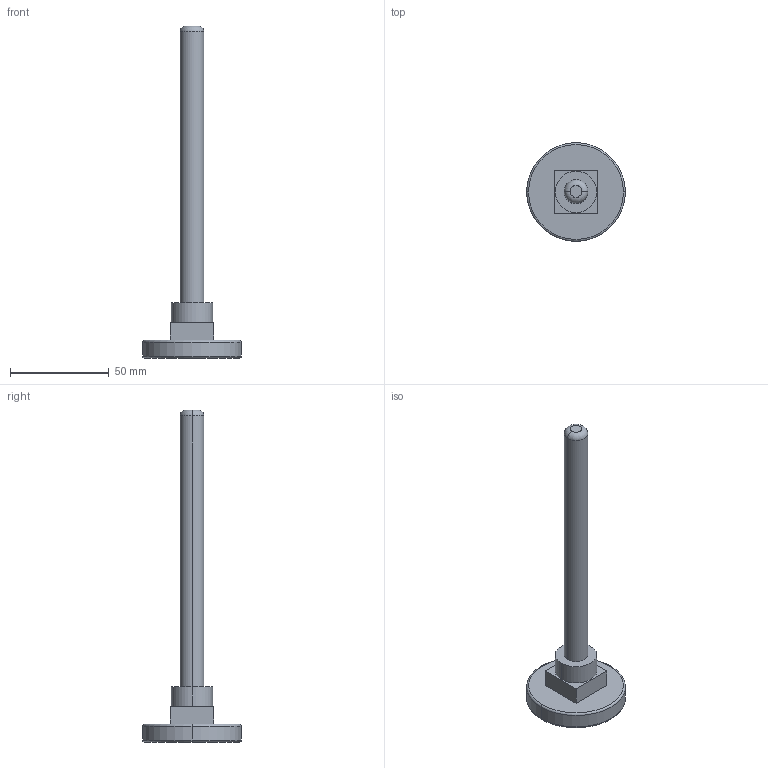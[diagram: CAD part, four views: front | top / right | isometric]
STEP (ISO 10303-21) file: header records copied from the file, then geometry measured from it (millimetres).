
FILE_DESCRIPTION (( 'STEP AP214' ), '1' );
FILE_NAME ('Termometr_bimetaliczny_x_0_3D_AFRISO.STEP', '2022-12-16T13:28:50', ( '' ), ( '' ), 'SwSTEP 2.0', 'SolidWorks 2022', '' );
FILE_SCHEMA (( 'AUTOMOTIVE_DESIGN' ));
Length unit declared in the file: millimetre
Products named in the file (1): Termometr_bimetaliczny_x_0_3D_AFRISO
Bounding box: 50 x 50 x 168 mm (x, y, z)
Volume: 41193.2 mm3; surface area: 11882 mm2
Topology: 1 solids, 1 shells, 21 faces, 42 edges, 26 vertices
Faces by surface type: plane 9, torus 6, cylinder 6
Entity records: 586 total; most frequent: DIRECTION 110, CARTESIAN_POINT 90, ORIENTED_EDGE 84, AXIS2_PLACEMENT_3D 46, EDGE_CURVE 42, VERTEX_POINT 26, CIRCLE 24, EDGE_LOOP 24
